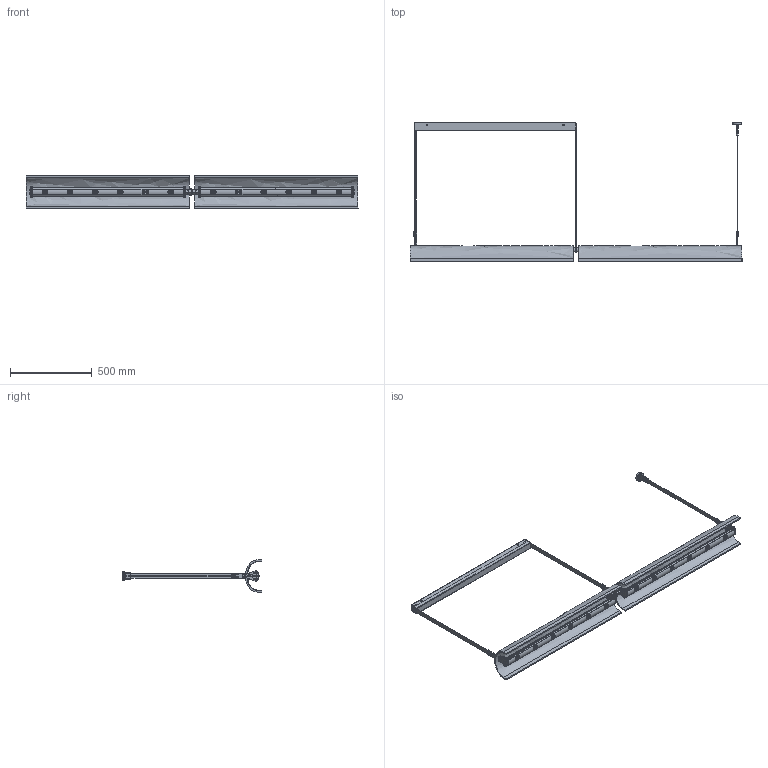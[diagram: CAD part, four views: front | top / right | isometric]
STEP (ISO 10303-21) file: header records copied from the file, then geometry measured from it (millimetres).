
FILE_DESCRIPTION (( 'STEP AP203' ), '1' );
FILE_NAME ('ALUET S-100-2L DIRECT - INDIRECT LIGHT 1320221x322.STEP', '2023-04-18T14:52:34', ( '' ), ( '' ), 'SwSTEP 2.0', 'SolidWorks 2019', '' );
FILE_SCHEMA (( 'CONFIG_CONTROL_DESIGN' ));
Length unit declared in the file: millimetre
Products named in the file (48): 000-132-015_2; 000-132-990; 000-D7991-410A2_D7991-410A2; 000-918-038Z; 000-132-019; 000-907-030; 000-132-022; 000-B1468_28_1; 000-OJETE_WALDES; 000-132-002; 000-132-004; 000-FLO132-002 DIR_IND TRIAC TWIN; 000-132-010; 000-132-027; 000-B1468_28_0; 000-132-021; 000-D7991-420A2_D7991-410A2; 000-132-012; 000-132-985; 000-D7991-320 a2_1; 000-D965-314; 000-132-029; 000-D7991-314 a4; 000-D965-410N; 000-132-987; 000-SUB132-003 SET ELEC 2L DIR_IND TWIN; 000-132-030; 000-132-026; 000-132-023; ALUET S-100-2L DIRECT - INDIRECT LIGHT 1320221x322; 000-132-007; 000-132-011; 000-132-986; 000-132-020; 000-132-009; 000-D7380-36; 000-132-991_TWIN_anclaje_cinta; 000-132-028; 000-132-024; 000-132-003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
Assembly tree (113 placements, depth 4):
  ALUET S-100-2L DIRECT - INDIRECT LIGHT 1320221x322
    000-FLO132-002 DIR_IND TRIAC TWIN
      000-132-026
      000-132-015
        000-132-015
      000-132-015_2
        000-132-015
      000-D912-416
      000-132-027
      000-D965-410N  x4
    000-SUB132-002 SET ELEC 2L DIR_IND TWIN CON CABLE
      000-918-038Z  x6
      000-132-004  x7
      000-132-002
      000-132-003
      000-D7991-420A2_D7991-410A2
      000-D7991-320 a2_1  x2
      000-132-007
      000-132-009
      000-132-008
      000-907-030
      000-132-018
      000-132-019
      000-132-028
        000-132-021
        000-132-020  x2
      000-D7991-314 a4
      000-D965-314  x2
    000-132-986
      000-132-010
      000-132-011
      000-OJETE_WALDES  x2
      000-132-029
      000-B1468_28_0
    000-132-987
      000-132-010
      000-132-011
      000-OJETE_WALDES  x2
      000-132-012
      000-B1468_28_0
    000-132-990
      000-132-023  x2
    000-132-022  x2
    000-132-030  x2
    000-D7380-36  x4
    000-SUB132-003 SET ELEC 2L DIR_IND TWIN
      000-918-038Z  x6
      000-132-004  x7
      000-132-002
      000-132-003
      000-D7991-420A2_D7991-410A2
      000-D7991-320 a2_1  x4
      000-132-007
      000-132-009
      000-132-008
      000-132-018
      000-132-019
    000-D965-314  x2
    000-D7991-314 a4
    000-132-985
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Bounding box: 2032 x 853.86 x 199.28 mm (x, y, z)
Volume: 6430178.9 mm3; surface area: 2910273.3 mm2
Topology: 106 solids, 106 shells, 5273 faces, 14014 edges, 9007 vertices
Faces by surface type: plane 2252, cylinder 1940, bspline 765, cone 316
Entity records: 92132 total; most frequent: CARTESIAN_POINT 27910, ORIENTED_EDGE 12392, DIRECTION 11461, EDGE_CURVE 6196, AXIS2_PLACEMENT_3D 4115, VERTEX_POINT 3990, VECTOR 3231, LINE 3231
